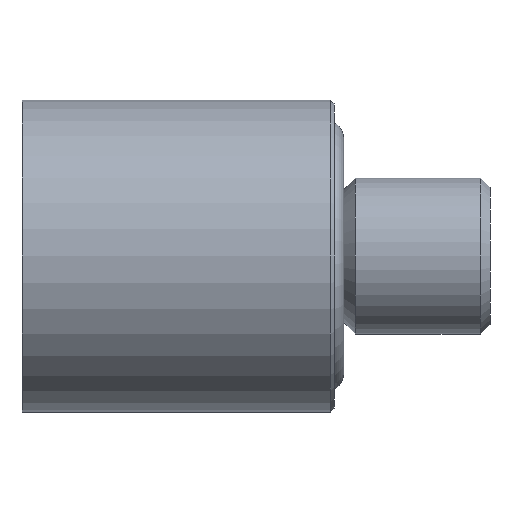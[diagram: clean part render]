
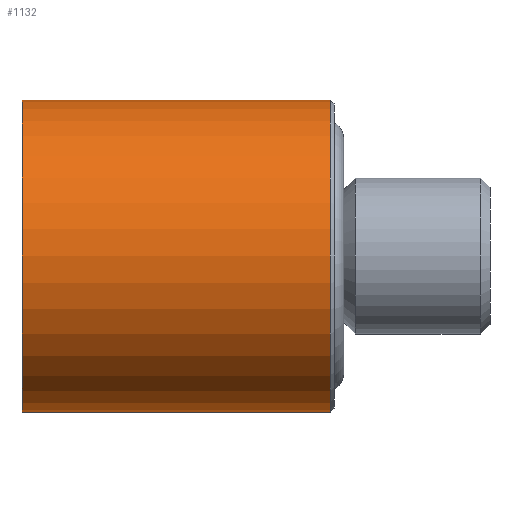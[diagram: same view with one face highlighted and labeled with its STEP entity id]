
A CAD part, left-side view. The second image highlights one B-rep face of the part: STEP entity #1132.
In plain terms, the highlighted cylindrical face has radius 8 mm (diameter 16 mm), a partial arc.
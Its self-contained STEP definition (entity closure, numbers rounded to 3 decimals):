
#1132 = ADVANCED_FACE ( 'NONE', ( #22956 ), #12748, .T. ) ;
#1174 = CARTESIAN_POINT ( 'NONE',  ( 0., 16., 8. ) ) ;
#1573 = VERTEX_POINT ( 'NONE', #15085 ) ;
#3186 = VECTOR ( 'NONE', #18259, 1000. ) ;
#4022 = EDGE_CURVE ( 'NONE', #22030, #25428, #5278, .T. ) ;
#5242 = CARTESIAN_POINT ( 'NONE',  ( 0., 16., -8. ) ) ;
#5278 = CIRCLE ( 'NONE', #14880, 8. ) ;
#5394 = DIRECTION ( 'NONE',  ( 0., 0., 1. ) ) ;
#7096 = EDGE_LOOP ( 'NONE', ( #10143, #8915, #15934, #16638 ) ) ;
#7240 = DIRECTION ( 'NONE',  ( 0., 1., 0. ) ) ;
#7734 = AXIS2_PLACEMENT_3D ( 'NONE', #26638, #13947, #5394 ) ;
#8515 = DIRECTION ( 'NONE',  ( 0., 0., 1. ) ) ;
#8555 = EDGE_CURVE ( 'NONE', #1573, #25428, #13939, .T. ) ;
#8915 = ORIENTED_EDGE ( 'NONE', *, *, #23782, .F. ) ;
#9106 = DIRECTION ( 'NONE',  ( 0., 0., -1. ) ) ;
#9689 = CARTESIAN_POINT ( 'NONE',  ( 0., 0., -8. ) ) ;
#10143 = ORIENTED_EDGE ( 'NONE', *, *, #26112, .F. ) ;
#10332 = CARTESIAN_POINT ( 'NONE',  ( 0., 0., 8. ) ) ;
#10809 = CARTESIAN_POINT ( 'NONE',  ( 0., 0.2, -8. ) ) ;
#11446 = LINE ( 'NONE', #9689, #3186 ) ;
#12748 = CYLINDRICAL_SURFACE ( 'NONE', #24286, 8. ) ;
#13939 = LINE ( 'NONE', #10332, #15915 ) ;
#13947 = DIRECTION ( 'NONE',  ( 0., -1., 0. ) ) ;
#14481 = VERTEX_POINT ( 'NONE', #10809 ) ;
#14880 = AXIS2_PLACEMENT_3D ( 'NONE', #20062, #7240, #9106 ) ;
#15085 = CARTESIAN_POINT ( 'NONE',  ( 0., 0.2, 8. ) ) ;
#15915 = VECTOR ( 'NONE', #22873, 1000. ) ;
#15934 = ORIENTED_EDGE ( 'NONE', *, *, #8555, .T. ) ;
#16638 = ORIENTED_EDGE ( 'NONE', *, *, #4022, .F. ) ;
#18259 = DIRECTION ( 'NONE',  ( 0., 1., 0. ) ) ;
#20062 = CARTESIAN_POINT ( 'NONE',  ( 0., 16., 0. ) ) ;
#20859 = CARTESIAN_POINT ( 'NONE',  ( 0., 0., 0. ) ) ;
#22030 = VERTEX_POINT ( 'NONE', #5242 ) ;
#22873 = DIRECTION ( 'NONE',  ( 0., 1., 0. ) ) ;
#22900 = DIRECTION ( 'NONE',  ( 0., 1., 0. ) ) ;
#22956 = FACE_OUTER_BOUND ( 'NONE', #7096, .T. ) ;
#23782 = EDGE_CURVE ( 'NONE', #1573, #14481, #25732, .T. ) ;
#24286 = AXIS2_PLACEMENT_3D ( 'NONE', #20859, #22900, #8515 ) ;
#25428 = VERTEX_POINT ( 'NONE', #1174 ) ;
#25732 = CIRCLE ( 'NONE', #7734, 8. ) ;
#26112 = EDGE_CURVE ( 'NONE', #14481, #22030, #11446, .T. ) ;
#26638 = CARTESIAN_POINT ( 'NONE',  ( 0., 0.2, 0. ) ) ;
